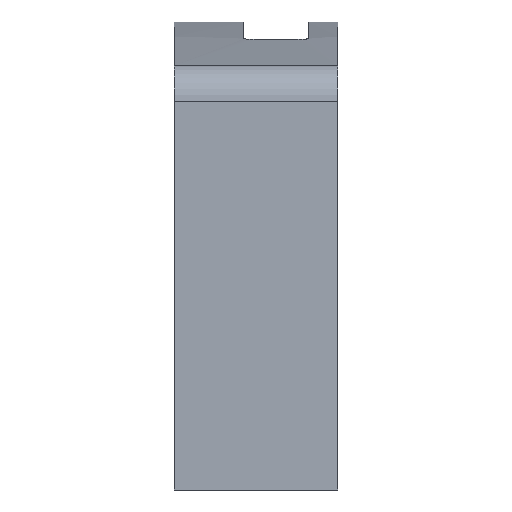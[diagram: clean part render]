
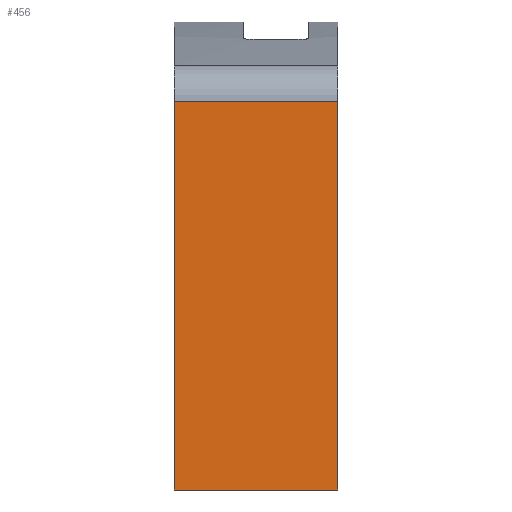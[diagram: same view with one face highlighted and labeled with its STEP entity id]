
A CAD part, left-side view. The second image highlights one B-rep face of the part: STEP entity #456.
In plain terms, the highlighted planar face has unit normal (-1, 0, 0).
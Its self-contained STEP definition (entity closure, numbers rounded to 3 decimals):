
#159 = CARTESIAN_POINT ( 'NONE',  ( -150., 45., -57.5 ) ) ;
#176 = EDGE_CURVE ( 'NONE', #1424, #2273, #3321, .T. ) ;
#337 = EDGE_CURVE ( 'NONE', #3903, #925, #3406, .T. ) ;
#349 = LINE ( 'NONE', #4340, #3201 ) ;
#456 = ADVANCED_FACE ( 'NONE', ( #3862 ), #2446, .T. ) ;
#562 = DIRECTION ( 'NONE',  ( 0., -1., 0. ) ) ;
#687 = CARTESIAN_POINT ( 'NONE',  ( -150., 0., 49.164 ) ) ;
#925 = VERTEX_POINT ( 'NONE', #687 ) ;
#1010 = CARTESIAN_POINT ( 'NONE',  ( -150., 45., -57.5 ) ) ;
#1180 = DIRECTION ( 'NONE',  ( 0., 0., 1. ) ) ;
#1267 = DIRECTION ( 'NONE',  ( 0., 0., 1. ) ) ;
#1286 = CARTESIAN_POINT ( 'NONE',  ( -150., 0., -57.5 ) ) ;
#1381 = DIRECTION ( 'NONE',  ( 0., 1., 0. ) ) ;
#1424 = VERTEX_POINT ( 'NONE', #1010 ) ;
#1511 = ORIENTED_EDGE ( 'NONE', *, *, #1936, .F. ) ;
#1685 = DIRECTION ( 'NONE',  ( -1., 0., 0. ) ) ;
#1936 = EDGE_CURVE ( 'NONE', #2273, #925, #3199, .T. ) ;
#2088 = CARTESIAN_POINT ( 'NONE',  ( -150., 45., 49.164 ) ) ;
#2273 = VERTEX_POINT ( 'NONE', #3483 ) ;
#2318 = ORIENTED_EDGE ( 'NONE', *, *, #2362, .F. ) ;
#2362 = EDGE_CURVE ( 'NONE', #3903, #1424, #349, .T. ) ;
#2386 = DIRECTION ( 'NONE',  ( 0., 0., 1. ) ) ;
#2446 = PLANE ( 'NONE',  #3570 ) ;
#2659 = ORIENTED_EDGE ( 'NONE', *, *, #176, .F. ) ;
#2818 = VECTOR ( 'NONE', #2386, 1000. ) ;
#2838 = EDGE_LOOP ( 'NONE', ( #2659, #2318, #3116, #1511 ) ) ;
#2912 = VECTOR ( 'NONE', #1180, 1000. ) ;
#3116 = ORIENTED_EDGE ( 'NONE', *, *, #337, .T. ) ;
#3199 = LINE ( 'NONE', #2088, #3669 ) ;
#3201 = VECTOR ( 'NONE', #1381, 1000. ) ;
#3321 = LINE ( 'NONE', #159, #2912 ) ;
#3406 = LINE ( 'NONE', #4158, #2818 ) ;
#3483 = CARTESIAN_POINT ( 'NONE',  ( -150., 45., 49.164 ) ) ;
#3570 = AXIS2_PLACEMENT_3D ( 'NONE', #1286, #1685, #1267 ) ;
#3669 = VECTOR ( 'NONE', #562, 1000. ) ;
#3862 = FACE_OUTER_BOUND ( 'NONE', #2838, .T. ) ;
#3903 = VERTEX_POINT ( 'NONE', #4187 ) ;
#4158 = CARTESIAN_POINT ( 'NONE',  ( -150., 0., -57.5 ) ) ;
#4187 = CARTESIAN_POINT ( 'NONE',  ( -150., 0., -57.5 ) ) ;
#4340 = CARTESIAN_POINT ( 'NONE',  ( -150., 0., -57.5 ) ) ;
